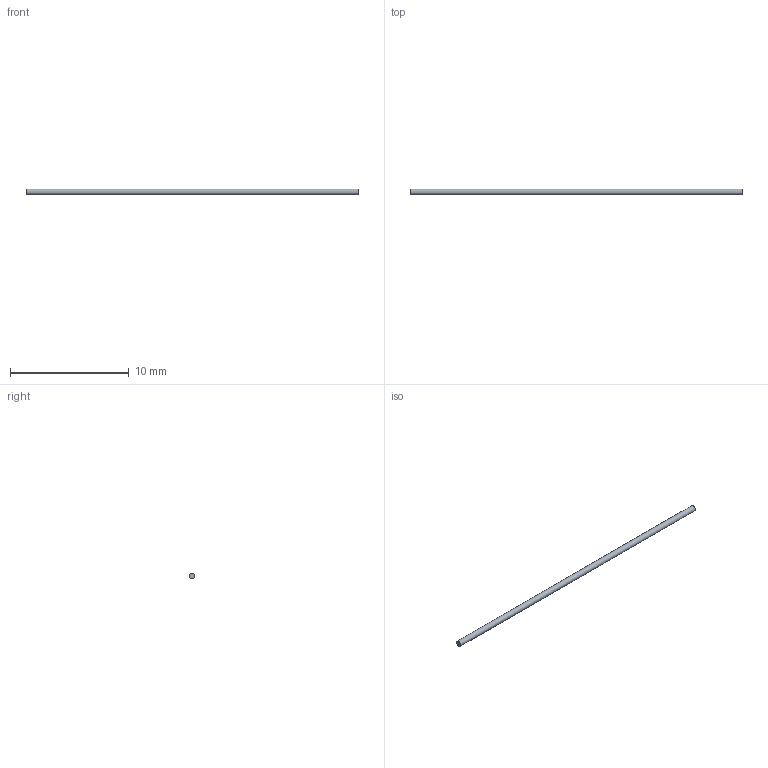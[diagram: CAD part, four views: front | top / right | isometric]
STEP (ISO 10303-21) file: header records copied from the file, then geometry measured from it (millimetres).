
FILE_DESCRIPTION(('FreeCAD Model'),'2;1');
FILE_NAME('Open CASCADE Shape Model','2026-04-07T19:07:43',('FreeCAD'),( 'FreeCAD'),'Open CASCADE STEP processor 7.8','FreeCAD','Unknown');
FILE_SCHEMA(('AUTOMOTIVE_DESIGN { 1 0 10303 214 1 1 1 1 }'));
Length unit declared in the file: millimetre
Products named in the file (1): Open CASCADE STEP translator 7.8 26
Bounding box: 27.94 x 0.5 x 0.5 mm (x, y, z)
Volume: 5.5 mm3; surface area: 44.3 mm2
Topology: 1 solids, 1 shells, 3 faces, 3 edges, 2 vertices
Faces by surface type: plane 2, cylinder 1
Full cylindrical faces by diameter (mm): 0.5 x1
Entity records: 69 total; most frequent: DIRECTION 13, CARTESIAN_POINT 9, AXIS2_PLACEMENT_3D 6, ORIENTED_EDGE 6, ADVANCED_FACE 3, FACE_BOUND 3, EDGE_LOOP 3, EDGE_CURVE 3
